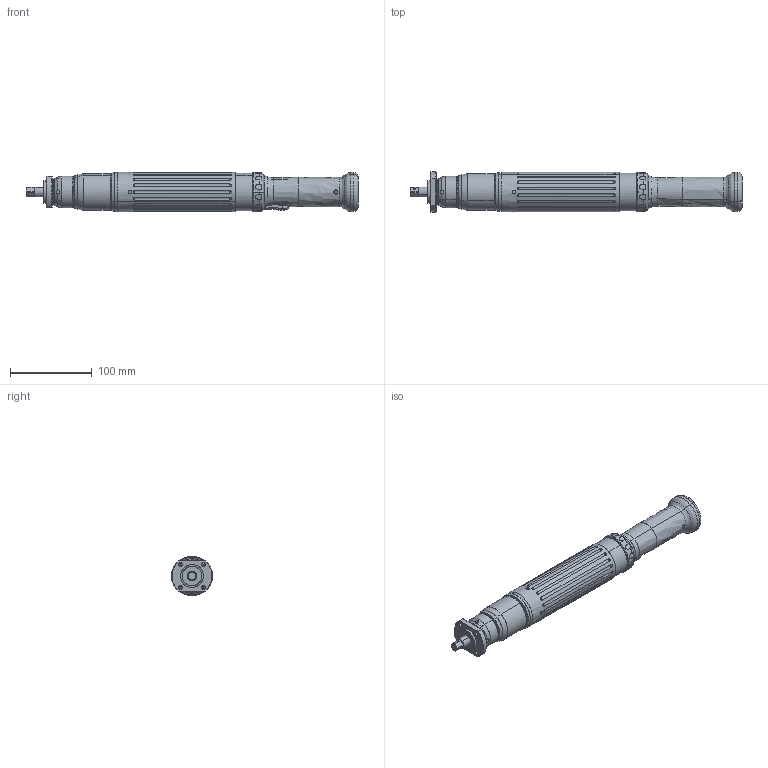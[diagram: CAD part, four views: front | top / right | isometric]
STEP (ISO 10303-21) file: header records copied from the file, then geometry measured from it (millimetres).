
FILE_DESCRIPTION(('STEP AP203'),'2;1');
FILE_NAME('EH2-R2035-S.stp','2009-03-18T08:45:49',(''),(''),'2008.1.107','THINKDESIGN','');
FILE_SCHEMA(('CONFIG_CONTROL_DESIGN'));
Bounding box: 406.5 x 49.9 x 48 mm (x, y, z)
Surface area: 107499.3 mm2 (no closed solid volume)
Topology: 0 solids, 0 shells, 1001 faces, 4691 edges, 4617 vertices
Faces by surface type: bspline 742, plane 259
Entity records: 52999 total; most frequent: CARTESIAN_POINT 37789, COMPOSITE_CURVE_SEGMENT 4527, DIRECTION 1933, B_SPLINE_CURVE_WITH_KNOTS 1662, VECTOR 1415, LINE 1415, TRIMMED_CURVE 1415, OUTER_BOUNDARY_CURVE 997
